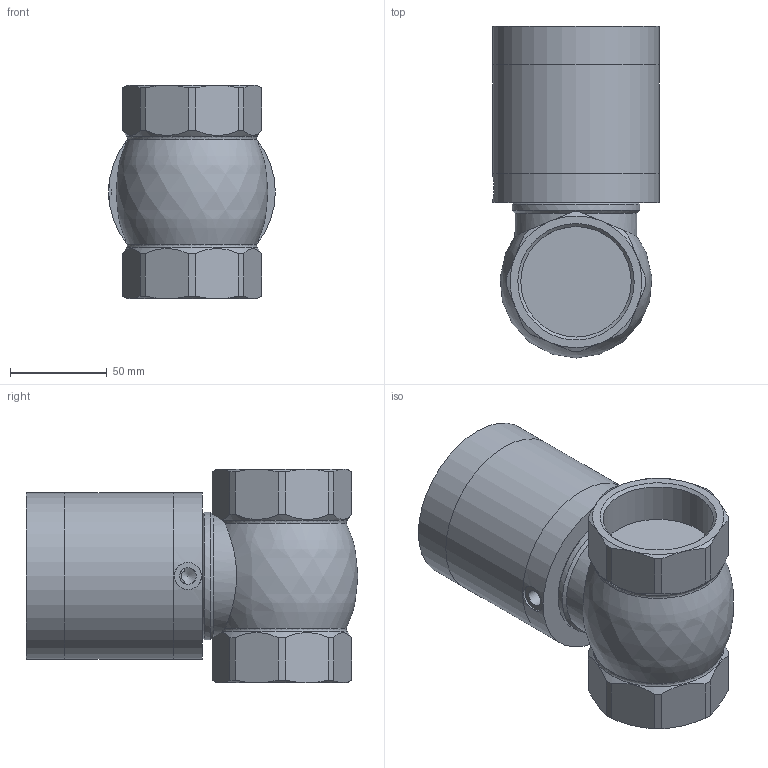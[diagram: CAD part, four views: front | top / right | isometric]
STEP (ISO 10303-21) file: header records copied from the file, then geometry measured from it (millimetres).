
FILE_DESCRIPTION(/* description */ (''),/* implementation_level */ '2;1');
FILE_NAME(/* name */ 'D:\OneDrive\Disegni Air Matic\Inventor\3D AerFlux base\AerFlux 2.stp',/* time_stamp */ '2020-06-03T19:20:44+02:00',/* author */ ('Alex'),/* organization */ (''),/* preprocessor_version */ 'ST-DEVELOPER v16.1',/* originating_system */ 'Autodesk Inventor 2016',/* authorisation */ '');
FILE_SCHEMA (('AUTOMOTIVE_DESIGN { 1 0 10303 214 3 1 1 }'));
Length unit declared in the file: millimetre
Products named in the file (5): TP AF 112 2; Tubo AF 112 2; Testa Anteriore AF 2; SAICORPGDBO09; AerFlux 2
Assembly tree (4 placements, depth 2):
  AerFlux 2
    TP AF 112 2
    Tubo AF 112 2
    Testa Anteriore AF 2
    SAICORPGDBO09
Bounding box: 86 x 171.23 x 110 mm (x, y, z)
Volume: 569663.3 mm3; surface area: 134777.8 mm2
Topology: 4 solids, 4 shells, 130 faces, 286 edges, 183 vertices
Faces by surface type: plane 65, cylinder 36, cone 24, bspline 3, torus 2
Full cylindrical faces by diameter (mm): 8.566 x2, 14 x1, 16.05 x1, 16.5 x2, 20.6 x2, 32 x1, 35 x2, 52.2 x1, 54.4 x1, 56 x1, 56.8 x1, 57 x2, 63 x2, 65 x2, 66 x1, 76.7 x2, 80 x1, 82 x4, 83 x2, 86 x3
Entity records: 3846 total; most frequent: CARTESIAN_POINT 1271, DIRECTION 511, ORIENTED_EDGE 474, EDGE_CURVE 237, AXIS2_PLACEMENT_3D 236, EDGE_LOOP 198, VERTEX_POINT 175, FACE_OUTER_BOUND 130
